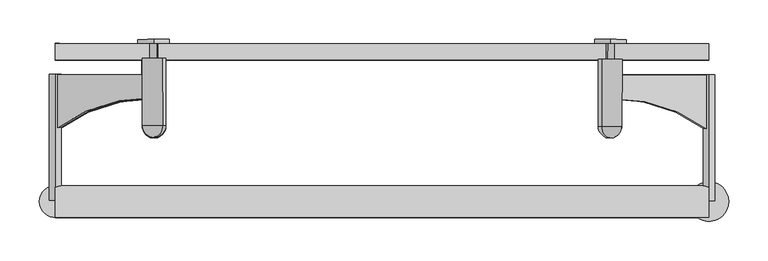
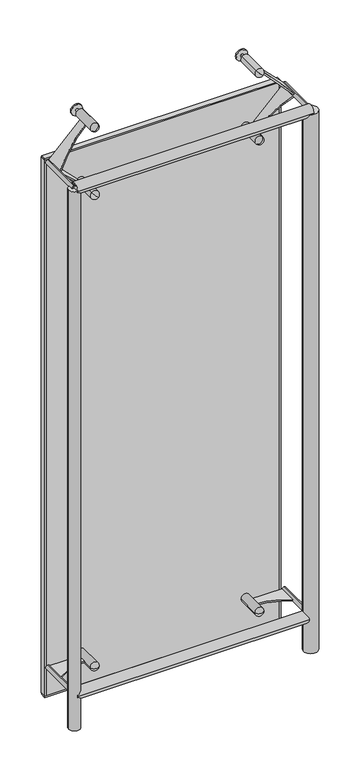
"""IFC4 building model written with IfcOpenShell, lengths in millimetres: plate geometry, FLATNING_TRYOUT : FLATNING_TRYOUT."""

from ifc_helpers import new_model, si_unit, point, frame, frame_2d, origin, origin_with_axes, place, context, project, spatial, polyline, circle_curve, ellipse_curve, trimmed, segment, composite_curve, outline, extrude, source, transform, mapped, element, save
from ifc_brep_helpers import plane_surface, cylinder_surface, revolved_surface, advanced_brep


def plate_934565e3(model_context):
    return source(origin(), model_context, "Body", "SolidModel", [
        extrude(outline(composite_curve([segment(polyline([(29.9999999, 0.0), (30.0, -177.0), (-40.0000001, -177.0)]), True, "CONTINUOUS"), segment(trimmed(circle_curve(frame_2d((-375.1980994, -8.2292431)), 375.2883348), [point((-40.0000001, -177.0))], [point((0.0, 0.0))], True, "CARTESIAN"), True, "CONTINUOUS"), segment(polyline([(0.0, 0.0), (29.9999999, 0.0)]), True, "CONTINUOUS")], self_intersect=False)), frame((287.7156771, -69.2674093, 2123.3901333), z_axis=(0.7070974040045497, -0.003641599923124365, 0.7071067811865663), x_axis=(0.005150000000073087, 0.9999867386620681, 0.0)), (0.0, 0.0, 1.0), 5.0),
        advanced_brep(
        [(289.8439206, 0.7225584, 2125.1579003), (293.3794076, 0.7043504, 2121.6223664), (286.3084336, 0.7407664, 2128.6934342), (279.1344596, -19.2225524, 2135.764502), (300.3473817, -19.3318004, 2114.5512986), (299.9096317, -104.3306732, 2114.5512986), (278.6967096, -104.2214252, 2135.764502), (286.2054336, -19.2589684, 2128.6934342), (293.2764076, -19.2953844, 2121.6223664), (289.2259206, -119.2758503, 2125.1579003)],
        [
            (0, 1),
            (1, 2, circle_curve(frame((289.8439206, 0.7225584, 2125.1579003), z_axis=(0.005150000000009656, 0.9999867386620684, 0.0), x_axis=(0.7070974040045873, -0.0036415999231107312, -0.7071067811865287)), 5.0)),
            (2, 0),
            (2, 1, circle_curve(frame((289.8439206, 0.7225584, 2125.1579003), z_axis=(0.005150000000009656, 0.9999867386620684, 0.0), x_axis=(0.7070974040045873, -0.0036415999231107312, -0.7071067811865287)), 5.0)),
            (3, 4, circle_curve(frame((289.7409206, -19.2771764, 2125.1579003), z_axis=(-0.005150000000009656, -0.9999867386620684, 0.0), x_axis=(0.7070974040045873, -0.0036415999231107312, -0.7071067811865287)), 15.0)),
            (4, 5),
            (5, 6, circle_curve(frame((289.3031706, -104.2760492, 2125.1579003), z_axis=(0.005150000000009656, 0.9999867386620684, 0.0), x_axis=(0.7070974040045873, -0.0036415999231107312, -0.7071067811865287)), 15.0)),
            (6, 3),
            (4, 3, circle_curve(frame((289.7409206, -19.2771764, 2125.1579003), z_axis=(-0.005150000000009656, -0.9999867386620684, 0.0), x_axis=(0.7070974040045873, -0.0036415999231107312, -0.7071067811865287)), 15.0)),
            (6, 5, circle_curve(frame((289.3031706, -104.2760492, 2125.1579003), z_axis=(0.005150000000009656, 0.9999867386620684, 0.0), x_axis=(0.7070974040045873, -0.0036415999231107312, -0.7071067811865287)), 15.0)),
            (7, 8, circle_curve(frame((289.7409206, -19.2771764, 2125.1579003), z_axis=(-0.005150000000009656, -0.9999867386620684, 0.0), x_axis=(0.7070974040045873, -0.0036415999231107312, -0.7071067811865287)), 5.0)),
            (8, 4),
            (3, 7),
            (8, 7, circle_curve(frame((289.7409206, -19.2771764, 2125.1579003), z_axis=(-0.005150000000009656, -0.9999867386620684, 0.0), x_axis=(0.7070974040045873, -0.0036415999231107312, -0.7071067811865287)), 5.0)),
            (1, 8),
            (7, 2),
            (5, 9, circle_curve(frame((289.3031706, -104.2760492, 2125.1579003), z_axis=(-0.7070974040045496, 0.0036415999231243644, -0.7071067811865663), x_axis=(0.7070974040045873, -0.0036415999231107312, -0.7071067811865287)), 15.0)),
            (9, 6, circle_curve(frame((289.3031706, -104.2760492, 2125.1579003), z_axis=(-0.7070974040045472, 0.0036415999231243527, -0.7071067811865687), x_axis=(-0.7070974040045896, 0.003641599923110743, 0.7071067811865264)), 15.0)),
        ],
        [
            plane_surface(frame((289.8439206, 0.7225584, 2125.1579003), z_axis=(0.005150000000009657, 0.9999867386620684, 0.0), x_axis=(0.7070974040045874, -0.0036415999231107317, -0.7071067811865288))),
            cylinder_surface(frame((292.5734206, 530.7155299, 2125.1579003), z_axis=(0.005150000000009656, 0.9999867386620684, 0.0), x_axis=(0.7070974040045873, -0.0036415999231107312, -0.7071067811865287)), 15.0),
            plane_surface(frame((289.7409206, -19.2771764, 2125.1579003), z_axis=(0.005150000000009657, 0.9999867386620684, 0.0), x_axis=(0.7070974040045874, -0.0036415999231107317, -0.7071067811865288))),
            cylinder_surface(frame((292.5734206, 530.7155299, 2125.1579003), z_axis=(0.005150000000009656, 0.9999867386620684, 0.0), x_axis=(0.7070974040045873, -0.0036415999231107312, -0.7071067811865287)), 5.0),
            revolved_surface(trimmed(ellipse_curve(frame((289.3031706, -104.2760492, 2125.1579003), z_axis=(0.7070974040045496, -0.0036415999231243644, 0.7071067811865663), x_axis=(0.7070974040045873, -0.0036415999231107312, -0.7071067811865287)), 15.0, 15.0), [point((289.2259206, -119.2758503, 2125.1579003))], [point((299.9096317, -104.3306732, 2114.5512986))], True, "CARTESIAN"), (292.5734206, 530.7155299, 2125.1579003), (0.005150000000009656, 0.9999867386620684, 0.0)),
        ],
        [
            (0, [[1, 2, 3]]),
            (0, [[-3, 4, -1]]),
            (1, [[5, 6, 7, 8]]),
            (1, [[9, -8, 10, -6]]),
            (2, [[11, 12, -5, 13]]),
            (2, [[14, -13, -9, -12]]),
            (3, [[-2, 15, -11, 16]]),
            (3, [[-4, -16, -14, -15]]),
            (4, [[-7, 17, 18]]),
            (4, [[-10, -18, -17]]),
        ],
    ),
        extrude(outline(composite_curve([segment(polyline([(-29.9999999, 0.0), (0.0, 0.0)]), True, "CONTINUOUS"), segment(trimmed(circle_curve(frame_2d((375.1980994, -8.2292431)), 375.2883348), [point((0.0, 0.0))], [point((40.0000001, -177.0))], True, "CARTESIAN"), True, "CONTINUOUS"), segment(polyline([(40.0000001, -177.0), (-30.0, -177.0), (-29.9999999, 0.0)]), True, "CONTINUOUS")], self_intersect=False)), frame((-287.7182745, -68.1085247, 2123.3901333), z_axis=(-0.7070974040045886, -0.003641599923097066, 0.7071067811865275), x_axis=(0.005150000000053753, -0.9999867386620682, 0.0)), (0.0, 0.0, 1.0), 5.0),
        advanced_brep(
        [(-289.846518, 1.881443, 2125.1579003), (-293.3820051, 1.863235, 2121.6223664), (-286.311031, 1.899651, 2128.6934342), (-279.137057, -18.0636678, 2135.764502), (-300.3499791, -18.1729158, 2114.5512986), (-299.9122291, -103.1717886, 2114.5512986), (-278.699307, -103.0625406, 2135.764502), (-286.208031, -18.1000838, 2128.6934342), (-293.2790051, -18.1364998, 2121.6223664), (-289.228518, -118.1169657, 2125.1579003)],
        [
            (0, 1),
            (1, 2, circle_curve(frame((-289.846518, 1.881443, 2125.1579003), z_axis=(-0.005149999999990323, 0.9999867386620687, 0.0), x_axis=(-0.7070974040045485, -0.0036415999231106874, -0.7071067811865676)), 5.0)),
            (2, 0),
            (2, 1, circle_curve(frame((-289.846518, 1.881443, 2125.1579003), z_axis=(-0.005149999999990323, 0.9999867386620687, 0.0), x_axis=(-0.7070974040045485, -0.0036415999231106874, -0.7071067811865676)), 5.0)),
            (3, 4, circle_curve(frame((-289.743518, -18.1182918, 2125.1579003), z_axis=(0.005149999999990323, -0.9999867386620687, 0.0), x_axis=(-0.7070974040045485, -0.0036415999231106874, -0.7071067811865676)), 15.0)),
            (4, 5),
            (5, 6, circle_curve(frame((-289.305768, -103.1171646, 2125.1579003), z_axis=(-0.005149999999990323, 0.9999867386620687, 0.0), x_axis=(-0.7070974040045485, -0.0036415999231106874, -0.7071067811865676)), 15.0)),
            (6, 3),
            (4, 3, circle_curve(frame((-289.743518, -18.1182918, 2125.1579003), z_axis=(0.005149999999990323, -0.9999867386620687, 0.0), x_axis=(-0.7070974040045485, -0.0036415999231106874, -0.7071067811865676)), 15.0)),
            (6, 5, circle_curve(frame((-289.305768, -103.1171646, 2125.1579003), z_axis=(-0.005149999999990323, 0.9999867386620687, 0.0), x_axis=(-0.7070974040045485, -0.0036415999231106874, -0.7071067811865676)), 15.0)),
            (7, 8, circle_curve(frame((-289.743518, -18.1182918, 2125.1579003), z_axis=(0.005149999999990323, -0.9999867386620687, 0.0), x_axis=(-0.7070974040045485, -0.0036415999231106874, -0.7071067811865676)), 5.0)),
            (8, 4),
            (3, 7),
            (8, 7, circle_curve(frame((-289.743518, -18.1182918, 2125.1579003), z_axis=(0.005149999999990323, -0.9999867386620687, 0.0), x_axis=(-0.7070974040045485, -0.0036415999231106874, -0.7071067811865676)), 5.0)),
            (1, 8),
            (7, 2),
            (5, 9, circle_curve(frame((-289.305768, -103.1171646, 2125.1579003), z_axis=(-0.7070974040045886, -0.003641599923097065, 0.7071067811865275), x_axis=(-0.7070974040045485, -0.0036415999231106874, -0.7071067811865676)), 15.0)),
            (9, 6, circle_curve(frame((-289.305768, -103.1171646, 2125.1579003), z_axis=(-0.707097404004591, -0.0036415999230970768, 0.7071067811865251), x_axis=(0.7070974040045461, 0.0036415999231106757, 0.7071067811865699)), 15.0)),
        ],
        [
            plane_surface(frame((-289.846518, 1.881443, 2125.1579003), z_axis=(-0.005149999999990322, 0.9999867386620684, 0.0), x_axis=(-0.7070974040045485, -0.0036415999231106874, -0.7071067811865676))),
            cylinder_surface(frame((-292.576018, 531.8744145, 2125.1579003), z_axis=(-0.005149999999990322, 0.9999867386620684, 0.0), x_axis=(-0.7070974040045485, -0.0036415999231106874, -0.7071067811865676)), 15.0),
            plane_surface(frame((-289.743518, -18.1182918, 2125.1579003), z_axis=(-0.005149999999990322, 0.9999867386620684, 0.0), x_axis=(-0.7070974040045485, -0.0036415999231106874, -0.7071067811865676))),
            cylinder_surface(frame((-292.576018, 531.8744145, 2125.1579003), z_axis=(-0.005149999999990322, 0.9999867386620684, 0.0), x_axis=(-0.7070974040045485, -0.0036415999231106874, -0.7071067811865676)), 5.0),
            revolved_surface(trimmed(ellipse_curve(frame((-289.305768, -103.1171646, 2125.1579003), z_axis=(0.7070974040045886, 0.003641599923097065, -0.7071067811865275), x_axis=(-0.7070974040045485, -0.0036415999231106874, -0.7071067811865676)), 15.0, 15.0), [point((-289.228518, -118.1169657, 2125.1579003))], [point((-299.9122291, -103.1717886, 2114.5512986))], True, "CARTESIAN"), (-292.576018, 531.8744145, 2125.1579003), (-0.005149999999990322, 0.9999867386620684, 0.0)),
        ],
        [
            (0, [[1, 2, 3]]),
            (0, [[-3, 4, -1]]),
            (1, [[5, 6, 7, 8]]),
            (1, [[9, -8, 10, -6]]),
            (2, [[11, 12, -5, 13]]),
            (2, [[14, -13, -9, -12]]),
            (3, [[-2, 15, -11, 16]]),
            (3, [[-4, -16, -14, -15]]),
            (4, [[-7, 17, 18]]),
            (4, [[-10, -18, -17]]),
        ],
    ),
        extrude(outline(composite_curve([segment(polyline([(30.0, 0.0), (30.0, -176.9999999), (-40.0, -176.9999999)]), True, "CONTINUOUS"), segment(trimmed(circle_curve(frame_2d((-375.1980994, -8.2292431)), 375.2883348), [point((-40.0, -176.9999999))], [point((0.0, 0.0))], True, "CARTESIAN"), True, "CONTINUOUS"), segment(polyline([(0.0, 0.0), (30.0, 0.0)]), True, "CONTINUOUS")], self_intersect=False)), frame((291.251003, -69.2856165, 1873.0743328), z_axis=(-0.7070974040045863, 0.0036415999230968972, 0.7071067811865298), x_axis=(0.005150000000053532, 0.9999867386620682, 0.0)), (0.0, 0.0, 1.0), 5.0),
        advanced_brep(
        [(289.8437595, 0.7225592, 1874.8420997), (293.3792465, 0.7043512, 1878.3776336), (286.3082725, 0.7407672, 1871.3065658), (279.1342984, -19.2225516, 1864.235498), (300.3472206, -19.3317996, 1885.4487014), (299.9094706, -104.3306723, 1885.4487014), (278.6965484, -104.2214243, 1864.235498), (286.2052725, -19.2589676, 1871.3065658), (293.2762465, -19.2953836, 1878.3776336), (289.2257595, -119.2758494, 1874.8420997)],
        [
            (0, 1),
            (1, 2, circle_curve(frame((289.8437595, 0.7225592, 1874.8420997), z_axis=(0.005149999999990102, 0.9999867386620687, 0.0), x_axis=(0.7070974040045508, -0.0036415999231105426, 0.7071067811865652)), 5.0)),
            (2, 0),
            (2, 1, circle_curve(frame((289.8437595, 0.7225592, 1874.8420997), z_axis=(0.005149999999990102, 0.9999867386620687, 0.0), x_axis=(0.7070974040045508, -0.0036415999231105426, 0.7071067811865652)), 5.0)),
            (3, 4, circle_curve(frame((289.7407595, -19.2771756, 1874.8420997), z_axis=(-0.005149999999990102, -0.9999867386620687, 0.0), x_axis=(0.7070974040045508, -0.0036415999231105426, 0.7071067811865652)), 15.0)),
            (4, 5),
            (5, 6, circle_curve(frame((289.3030095, -104.2760483, 1874.8420997), z_axis=(0.005149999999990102, 0.9999867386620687, 0.0), x_axis=(0.7070974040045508, -0.0036415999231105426, 0.7071067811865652)), 15.0)),
            (6, 3),
            (4, 3, circle_curve(frame((289.7407595, -19.2771756, 1874.8420997), z_axis=(-0.005149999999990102, -0.9999867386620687, 0.0), x_axis=(0.7070974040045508, -0.0036415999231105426, 0.7071067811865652)), 15.0)),
            (6, 5, circle_curve(frame((289.3030095, -104.2760483, 1874.8420997), z_axis=(0.005149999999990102, 0.9999867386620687, 0.0), x_axis=(0.7070974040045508, -0.0036415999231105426, 0.7071067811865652)), 15.0)),
            (7, 8, circle_curve(frame((289.7407595, -19.2771756, 1874.8420997), z_axis=(-0.005149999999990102, -0.9999867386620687, 0.0), x_axis=(0.7070974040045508, -0.0036415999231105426, 0.7071067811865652)), 5.0)),
            (8, 4),
            (3, 7),
            (8, 7, circle_curve(frame((289.7407595, -19.2771756, 1874.8420997), z_axis=(-0.005149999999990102, -0.9999867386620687, 0.0), x_axis=(0.7070974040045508, -0.0036415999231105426, 0.7071067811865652)), 5.0)),
            (1, 8),
            (7, 2),
            (5, 9, circle_curve(frame((289.3030095, -104.2760483, 1874.8420997), z_axis=(0.7070974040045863, -0.0036415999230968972, -0.7071067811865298), x_axis=(0.7070974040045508, -0.0036415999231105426, 0.7071067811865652)), 15.0)),
            (9, 6, circle_curve(frame((289.3030095, -104.2760483, 1874.8420997), z_axis=(0.7070974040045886, -0.003641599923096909, -0.7071067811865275), x_axis=(-0.7070974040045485, 0.003641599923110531, -0.7071067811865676)), 15.0)),
        ],
        [
            plane_surface(frame((289.8437595, 0.7225592, 1874.8420997), z_axis=(0.005149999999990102, 0.9999867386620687, 0.0), x_axis=(0.7070974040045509, -0.003641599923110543, 0.7071067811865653))),
            cylinder_surface(frame((292.5732595, 530.7155307, 1874.8420997), z_axis=(0.005149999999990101, 0.9999867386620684, 0.0), x_axis=(0.7070974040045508, -0.0036415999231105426, 0.7071067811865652)), 15.0),
            plane_surface(frame((289.7407595, -19.2771756, 1874.8420997), z_axis=(0.005149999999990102, 0.9999867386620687, 0.0), x_axis=(0.7070974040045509, -0.003641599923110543, 0.7071067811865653))),
            cylinder_surface(frame((292.5732595, 530.7155307, 1874.8420997), z_axis=(0.005149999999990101, 0.9999867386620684, 0.0), x_axis=(0.7070974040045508, -0.0036415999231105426, 0.7071067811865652)), 5.0),
            revolved_surface(trimmed(ellipse_curve(frame((289.3030095, -104.2760483, 1874.8420997), z_axis=(-0.7070974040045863, 0.0036415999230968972, 0.7071067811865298), x_axis=(0.7070974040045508, -0.0036415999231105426, 0.7071067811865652)), 15.0, 15.0), [point((289.2257595, -119.2758494, 1874.8420997))], [point((299.9094706, -104.3306723, 1885.4487014))], True, "CARTESIAN"), (292.5732595, 530.7155307, 1874.8420997), (0.005149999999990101, 0.9999867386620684, 0.0)),
        ],
        [
            (0, [[1, 2, 3]]),
            (0, [[-3, 4, -1]]),
            (1, [[5, 6, 7, 8]]),
            (1, [[9, -8, 10, -6]]),
            (2, [[11, 12, -5, 13]]),
            (2, [[14, -13, -9, -12]]),
            (3, [[-2, 15, -11, 16]]),
            (3, [[-4, -16, -14, -15]]),
            (4, [[-7, 17, 18]]),
            (4, [[-10, -18, -17]]),
        ],
    ),
        extrude(outline(composite_curve([segment(polyline([(30.0, 0.0), (0.0, 0.0)]), True, "CONTINUOUS"), segment(trimmed(circle_curve(frame_2d((-375.1980994, 8.2292431)), 375.2883348), [point((0.0, 0.0))], [point((-40.0, 176.9999999))], True, "CARTESIAN"), True, "CONTINUOUS"), segment(polyline([(-40.0, 176.9999999), (30.0, 176.9999999), (30.0, 0.0)]), True, "CONTINUOUS")], self_intersect=False)), frame((-291.251003, -69.2856165, 1873.0743328), z_axis=(0.7070974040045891, 0.003641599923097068, 0.707106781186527), x_axis=(-0.005150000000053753, 0.9999867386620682, 0.0)), (0.0, 0.0, 1.0), 5.0),
        advanced_brep(
        [(-289.8437595, 0.7225592, 1874.8420997), (-286.3082725, 0.7407672, 1871.3065658), (-293.3792465, 0.7043512, 1878.3776336), (-279.1342984, -19.2225516, 1864.235498), (-278.6965484, -104.2214243, 1864.235498), (-299.9094706, -104.3306723, 1885.4487014), (-300.3472206, -19.3317996, 1885.4487014), (-286.2052725, -19.2589676, 1871.3065658), (-293.2762465, -19.2953836, 1878.3776336), (-289.2257595, -119.2758494, 1874.8420997)],
        [
            (0, 1),
            (1, 2, circle_curve(frame((-289.8437595, 0.7225592, 1874.8420997), z_axis=(-0.005149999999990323, 0.9999867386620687, 0.0), x_axis=(-0.707097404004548, -0.003641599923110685, 0.707106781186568)), 5.0)),
            (2, 0),
            (2, 1, circle_curve(frame((-289.8437595, 0.7225592, 1874.8420997), z_axis=(-0.005149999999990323, 0.9999867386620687, 0.0), x_axis=(-0.707097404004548, -0.003641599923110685, 0.707106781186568)), 5.0)),
            (3, 4),
            (4, 5, circle_curve(frame((-289.3030095, -104.2760483, 1874.8420997), z_axis=(-0.005149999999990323, 0.9999867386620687, 0.0), x_axis=(-0.707097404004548, -0.003641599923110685, 0.707106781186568)), 15.0)),
            (5, 6),
            (6, 3, circle_curve(frame((-289.7407595, -19.2771756, 1874.8420997), z_axis=(0.005149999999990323, -0.9999867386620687, 0.0), x_axis=(-0.707097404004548, -0.003641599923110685, 0.707106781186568)), 15.0)),
            (5, 4, circle_curve(frame((-289.3030095, -104.2760483, 1874.8420997), z_axis=(-0.005149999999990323, 0.9999867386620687, 0.0), x_axis=(-0.707097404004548, -0.003641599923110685, 0.707106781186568)), 15.0)),
            (3, 6, circle_curve(frame((-289.7407595, -19.2771756, 1874.8420997), z_axis=(0.005149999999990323, -0.9999867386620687, 0.0), x_axis=(-0.707097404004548, -0.003641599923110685, 0.707106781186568)), 15.0)),
            (7, 3),
            (6, 8),
            (8, 7, circle_curve(frame((-289.7407595, -19.2771756, 1874.8420997), z_axis=(0.005149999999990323, -0.9999867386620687, 0.0), x_axis=(-0.707097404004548, -0.003641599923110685, 0.707106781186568)), 5.0)),
            (7, 8, circle_curve(frame((-289.7407595, -19.2771756, 1874.8420997), z_axis=(0.005149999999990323, -0.9999867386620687, 0.0), x_axis=(-0.707097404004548, -0.003641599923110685, 0.707106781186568)), 5.0)),
            (1, 7),
            (8, 2),
            (4, 9, circle_curve(frame((-289.3030095, -104.2760483, 1874.8420997), z_axis=(-0.7070974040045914, -0.0036415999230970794, -0.7071067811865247), x_axis=(0.7070974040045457, 0.003641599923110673, -0.7071067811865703)), 15.0)),
            (9, 5, circle_curve(frame((-289.3030095, -104.2760483, 1874.8420997), z_axis=(-0.7070974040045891, -0.0036415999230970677, -0.707106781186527), x_axis=(-0.707097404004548, -0.003641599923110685, 0.707106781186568)), 15.0)),
        ],
        [
            plane_surface(frame((-289.8437595, 0.7225592, 1874.8420997), z_axis=(-0.005149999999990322, 0.9999867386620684, 0.0), x_axis=(-0.707097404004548, -0.003641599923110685, 0.707106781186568))),
            cylinder_surface(frame((-292.5732595, 530.7155307, 1874.8420997), z_axis=(-0.005149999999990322, 0.9999867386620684, 0.0), x_axis=(-0.707097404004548, -0.003641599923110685, 0.707106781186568)), 15.0),
            plane_surface(frame((-289.7407595, -19.2771756, 1874.8420997), z_axis=(-0.005149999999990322, 0.9999867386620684, 0.0), x_axis=(-0.707097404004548, -0.003641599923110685, 0.707106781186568))),
            cylinder_surface(frame((-292.5732595, 530.7155307, 1874.8420997), z_axis=(-0.005149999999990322, 0.9999867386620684, 0.0), x_axis=(-0.707097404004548, -0.003641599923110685, 0.707106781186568)), 5.0),
            revolved_surface(trimmed(ellipse_curve(frame((-289.3030095, -104.2760483, 1874.8420997), z_axis=(-0.7070974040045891, -0.0036415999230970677, -0.707106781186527), x_axis=(-0.707097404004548, -0.003641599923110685, 0.707106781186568)), 15.0, 15.0), [point((-289.2257595, -119.2758494, 1874.8420997))], [point((-299.9094706, -104.3306723, 1885.4487014))], True, "CARTESIAN"), (-292.5732595, 530.7155307, 1874.8420997), (-0.005149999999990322, 0.9999867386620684, 0.0)),
        ],
        [
            (0, [[1, 2, 3]]),
            (0, [[-3, 4, -1]]),
            (1, [[5, 6, 7, 8]]),
            (1, [[-7, 9, -5, 10]]),
            (2, [[11, -8, 12, 13]]),
            (2, [[-12, -10, -11, 14]]),
            (3, [[15, -13, 16, -2]]),
            (3, [[-16, -14, -15, -4]]),
            (4, [[17, 18, -6]]),
            (4, [[-18, -17, -9]]),
        ],
    ),
        extrude(outline(composite_curve([segment(polyline([(289.7956578, -38.1188255), (414.7940002, -38.7625755), (414.4335002, -108.7616472)]), True, "CONTINUOUS"), segment(trimmed(circle_curve(frame_2d((284.2588537, -296.5494046)), 228.4943772), [point((414.4335002, -108.7616472))], [point((289.6411578, -68.1184277))], True, "CARTESIAN"), True, "CONTINUOUS"), segment(polyline([(289.6411578, -68.1184277), (289.7956578, -38.1188255)]), True, "CONTINUOUS")], self_intersect=False)), frame((0.0, 0.0, 122.5), z_axis=(0.0, 0.0, 1.0), x_axis=(1.0, 0.0, 0.0)), (0.0, 0.0, 1.0), 5.0),
        advanced_brep(
        [(290.0016578, 1.880644, 125.0), (295.0015915, 1.854894, 125.0), (285.0017241, 1.906394, 125.0), (274.8988567, -18.0418408, 125.0), (304.8984589, -18.1963408, 125.0), (304.4607089, -103.1952136, 125.0), (274.4611067, -103.0407136, 125.0), (284.8987241, -18.0933408, 125.0), (294.8985915, -18.1448408, 125.0), (289.3836578, -118.1177646, 125.0)],
        [
            (0, 1),
            (1, 2, circle_curve(frame((290.0016578, 1.880644, 125.0), z_axis=(0.005149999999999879, 0.9999867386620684, 0.0), x_axis=(0.9999867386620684, -0.005149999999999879, 0.0)), 5.0)),
            (2, 0),
            (2, 1, circle_curve(frame((290.0016578, 1.880644, 125.0), z_axis=(0.005149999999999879, 0.9999867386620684, 0.0), x_axis=(0.9999867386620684, -0.005149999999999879, 0.0)), 5.0)),
            (3, 4, circle_curve(frame((289.8986578, -18.1190908, 125.0), z_axis=(-0.005149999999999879, -0.9999867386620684, 0.0), x_axis=(0.9999867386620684, -0.005149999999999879, 0.0)), 15.0)),
            (4, 5),
            (5, 6, circle_curve(frame((289.4609078, -103.1179636, 125.0), z_axis=(0.005149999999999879, 0.9999867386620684, 0.0), x_axis=(0.9999867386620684, -0.005149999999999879, 0.0)), 15.0)),
            (6, 3),
            (4, 3, circle_curve(frame((289.8986578, -18.1190908, 125.0), z_axis=(-0.005149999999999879, -0.9999867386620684, 0.0), x_axis=(0.9999867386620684, -0.005149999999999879, 0.0)), 15.0)),
            (6, 5, circle_curve(frame((289.4609078, -103.1179636, 125.0), z_axis=(0.005149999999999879, 0.9999867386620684, 0.0), x_axis=(0.9999867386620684, -0.005149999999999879, 0.0)), 15.0)),
            (7, 8, circle_curve(frame((289.8986578, -18.1190908, 125.0), z_axis=(-0.005149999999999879, -0.9999867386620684, 0.0), x_axis=(0.9999867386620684, -0.005149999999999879, 0.0)), 5.0)),
            (8, 4),
            (3, 7),
            (8, 7, circle_curve(frame((289.8986578, -18.1190908, 125.0), z_axis=(-0.005149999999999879, -0.9999867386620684, 0.0), x_axis=(0.9999867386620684, -0.005149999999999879, 0.0)), 5.0)),
            (1, 8),
            (7, 2),
            (5, 9, circle_curve(frame((289.4609078, -103.1179636, 125.0), z_axis=(0.0, 0.0, -1.0), x_axis=(0.9999867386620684, -0.005149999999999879, 0.0)), 15.0)),
            (9, 6, circle_curve(frame((289.4609078, -103.1179636, 125.0), z_axis=(0.0, 0.0, -1.0), x_axis=(-0.9999867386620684, 0.005149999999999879, 0.0)), 15.0)),
        ],
        [
            plane_surface(frame((290.0016578, 1.880644, 125.0), z_axis=(0.005149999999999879, 0.9999867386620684, 0.0), x_axis=(0.9999867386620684, -0.005149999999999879, 0.0))),
            cylinder_surface(frame((291.3149078, 256.8772624, 125.0), z_axis=(0.005149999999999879, 0.9999867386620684, 0.0), x_axis=(0.9999867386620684, -0.005149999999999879, 0.0)), 15.0),
            plane_surface(frame((289.8986578, -18.1190908, 125.0), z_axis=(0.005149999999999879, 0.9999867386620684, 0.0), x_axis=(0.9999867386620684, -0.005149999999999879, 0.0))),
            cylinder_surface(frame((291.3149078, 256.8772624, 125.0), z_axis=(0.005149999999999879, 0.9999867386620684, 0.0), x_axis=(0.9999867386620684, -0.005149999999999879, 0.0)), 5.0),
            revolved_surface(trimmed(ellipse_curve(frame((289.4609078, -103.1179636, 125.0), z_axis=(0.0, 0.0, 1.0), x_axis=(0.9999867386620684, -0.005149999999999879, 0.0)), 15.0, 15.0), [point((289.3836578, -118.1177646, 125.0))], [point((304.4607089, -103.1952136, 125.0))], True, "CARTESIAN"), (291.3149078, 256.8772624, 125.0), (0.005149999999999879, 0.9999867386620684, 0.0)),
        ],
        [
            (0, [[1, 2, 3]]),
            (0, [[-3, 4, -1]]),
            (1, [[5, 6, 7, 8]]),
            (1, [[9, -8, 10, -6]]),
            (2, [[11, 12, -5, 13]]),
            (2, [[14, -13, -9, -12]]),
            (3, [[-2, 15, -11, 16]]),
            (3, [[-4, -16, -14, -15]]),
            (4, [[-7, 17, 18]]),
            (4, [[-10, -18, -17]]),
        ],
    ),
        extrude(outline(composite_curve([segment(polyline([(-289.7956578, -38.1188255), (-289.6411578, -68.1184277)]), True, "CONTINUOUS"), segment(trimmed(circle_curve(frame_2d((-284.2588537, -296.5494046)), 228.4943772), [point((-289.6411578, -68.1184277))], [point((-414.4335002, -108.7616472))], True, "CARTESIAN"), True, "CONTINUOUS"), segment(polyline([(-414.4335002, -108.7616472), (-414.7940002, -38.7625755), (-289.7956578, -38.1188255)]), True, "CONTINUOUS")], self_intersect=False)), frame((0.0, 0.0, 122.5), z_axis=(0.0, 0.0, 1.0), x_axis=(1.0, 0.0, 0.0)), (0.0, 0.0, 1.0), 5.0),
        advanced_brep(
        [(-290.0016578, 1.880644, 125.0), (-295.0015915, 1.854894, 125.0), (-285.0017241, 1.906394, 125.0), (-274.8988567, -18.0418408, 125.0), (-304.8984589, -18.1963408, 125.0), (-304.4607089, -103.1952136, 125.0), (-274.4611067, -103.0407136, 125.0), (-284.8987241, -18.0933408, 125.0), (-294.8985915, -18.1448408, 125.0), (-289.3836578, -118.1177646, 125.0)],
        [
            (0, 1),
            (1, 2, circle_curve(frame((-290.0016578, 1.880644, 125.0), z_axis=(-0.0051500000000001, 0.9999867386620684, 0.0), x_axis=(-0.9999867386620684, -0.0051500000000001, 0.0)), 5.0)),
            (2, 0),
            (2, 1, circle_curve(frame((-290.0016578, 1.880644, 125.0), z_axis=(-0.0051500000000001, 0.9999867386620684, 0.0), x_axis=(-0.9999867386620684, -0.0051500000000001, 0.0)), 5.0)),
            (3, 4, circle_curve(frame((-289.8986578, -18.1190908, 125.0), z_axis=(0.0051500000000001, -0.9999867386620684, 0.0), x_axis=(-0.9999867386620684, -0.0051500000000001, 0.0)), 15.0)),
            (4, 5),
            (5, 6, circle_curve(frame((-289.4609078, -103.1179636, 125.0), z_axis=(-0.0051500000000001, 0.9999867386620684, 0.0), x_axis=(-0.9999867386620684, -0.0051500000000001, 0.0)), 15.0)),
            (6, 3),
            (4, 3, circle_curve(frame((-289.8986578, -18.1190908, 125.0), z_axis=(0.0051500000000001, -0.9999867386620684, 0.0), x_axis=(-0.9999867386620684, -0.0051500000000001, 0.0)), 15.0)),
            (6, 5, circle_curve(frame((-289.4609078, -103.1179636, 125.0), z_axis=(-0.0051500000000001, 0.9999867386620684, 0.0), x_axis=(-0.9999867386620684, -0.0051500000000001, 0.0)), 15.0)),
            (7, 8, circle_curve(frame((-289.8986578, -18.1190908, 125.0), z_axis=(0.0051500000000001, -0.9999867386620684, 0.0), x_axis=(-0.9999867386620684, -0.0051500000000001, 0.0)), 5.0)),
            (8, 4),
            (3, 7),
            (8, 7, circle_curve(frame((-289.8986578, -18.1190908, 125.0), z_axis=(0.0051500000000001, -0.9999867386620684, 0.0), x_axis=(-0.9999867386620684, -0.0051500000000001, 0.0)), 5.0)),
            (1, 8),
            (7, 2),
            (5, 9, circle_curve(frame((-289.4609078, -103.1179636, 125.0), z_axis=(0.0, 0.0, 1.0), x_axis=(-0.9999867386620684, -0.0051500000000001, 0.0)), 15.0)),
            (9, 6, circle_curve(frame((-289.4609078, -103.1179636, 125.0), z_axis=(0.0, 0.0, 1.0), x_axis=(0.9999867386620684, 0.0051500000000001, 0.0)), 15.0)),
        ],
        [
            plane_surface(frame((-290.0016578, 1.880644, 125.0), z_axis=(-0.0051500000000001, 0.9999867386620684, 0.0), x_axis=(-0.9999867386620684, -0.0051500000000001, 0.0))),
            cylinder_surface(frame((-291.3149078, 256.8772624, 125.0), z_axis=(-0.0051500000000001, 0.9999867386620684, 0.0), x_axis=(-0.9999867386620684, -0.0051500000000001, 0.0)), 15.0),
            plane_surface(frame((-289.8986578, -18.1190908, 125.0), z_axis=(-0.0051500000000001, 0.9999867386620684, 0.0), x_axis=(-0.9999867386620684, -0.0051500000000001, 0.0))),
            cylinder_surface(frame((-291.3149078, 256.8772624, 125.0), z_axis=(-0.0051500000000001, 0.9999867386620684, 0.0), x_axis=(-0.9999867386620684, -0.0051500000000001, 0.0)), 5.0),
            revolved_surface(trimmed(ellipse_curve(frame((-289.4609078, -103.1179636, 125.0), z_axis=(0.0, 0.0, -1.0), x_axis=(-0.9999867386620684, -0.0051500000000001, 0.0)), 15.0, 15.0), [point((-289.3836578, -118.1177646, 125.0))], [point((-304.4607089, -103.1952136, 125.0))], True, "CARTESIAN"), (-291.3149078, 256.8772624, 125.0), (-0.0051500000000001, 0.9999867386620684, 0.0)),
        ],
        [
            (0, [[1, 2, 3]]),
            (0, [[-3, 4, -1]]),
            (1, [[5, 6, 7, 8]]),
            (1, [[9, -8, 10, -6]]),
            (2, [[11, 12, -5, 13]]),
            (2, [[14, -13, -9, -12]]),
            (3, [[-2, 15, -11, 16]]),
            (3, [[-4, -16, -14, -15]]),
            (4, [[-7, 17, 18]]),
            (4, [[-10, -18, -17]]),
        ],
    ),
        extrude(outline(polyline([(415.0, -20.0), (-415.0, -20.0), (-415.0, 0.0), (415.0, 0.0), (415.0, -20.0)])), origin_with_axes(), (0.0, 0.0, 1.0), 5.0),
        extrude(outline(polyline([(415.0, -20.0), (-415.0, -20.0), (-415.0, 0.0), (415.0, 0.0), (415.0, -20.0)])), frame((0.0, 0.0, 1995.0), z_axis=(0.0, 0.0, 1.0), x_axis=(1.0, 0.0, 0.0)), (0.0, 0.0, 1.0), 5.0),
        extrude(outline(polyline([(410.0, 0.0781286), (415.0, 0.0781286), (415.0, -20.0), (410.0, -20.0), (410.0, 0.0781286)])), frame((0.0, 0.0, 5.0), z_axis=(0.0, 0.0, 1.0), x_axis=(1.0, 0.0, 0.0)), (0.0, 0.0, 1.0), 1990.0),
        extrude(outline(polyline([(-410.0, 1.236894), (-410.0, -20.0), (-415.0000002, -20.0), (-415.0000002, 1.236894), (-410.0, 1.236894)])), frame((0.0, 0.0, 5.0), z_axis=(0.0, 0.0, 1.0), x_axis=(1.0, 0.0, 0.0)), (0.0, 0.0, 1.0), 1990.0),
        extrude(outline(polyline([(410.0, -20.0), (-410.0, -20.0), (-410.0, 0.0), (410.0, 0.0), (410.0, -20.0)])), frame((0.0, 0.0, 5.0), z_axis=(0.0, 0.0, 1.0), x_axis=(1.0, 0.0, 0.0)), (0.0, 0.0, 1.0), 1990.0),
        extrude(outline(composite_curve([segment(trimmed(circle_curve(frame_2d((-200.0, 2000.0)), 20.0), [point((-220.0, 2000.0))], [point((-180.0, 2000.0))], False, "CARTESIAN"), True, "CONTINUOUS"), segment(trimmed(circle_curve(frame_2d((-200.0, 2000.0)), 20.0), [point((-180.0, 2000.0))], [point((-220.0, 2000.0))], False, "CARTESIAN"), True, "CONTINUOUS")], self_intersect=False)), frame((-415.0, 0.0, 0.0), z_axis=(1.0, 0.0, 0.0), x_axis=(0.0, 1.0, 0.0)), (0.0, 0.0, 1.0), 830.0),
        extrude(outline(composite_curve([segment(trimmed(circle_curve(frame_2d((-200.0, 125.0)), 20.0), [point((-220.0, 125.0))], [point((-180.0, 125.0))], False, "CARTESIAN"), True, "CONTINUOUS"), segment(trimmed(circle_curve(frame_2d((-200.0, 125.0)), 20.0), [point((-180.0, 125.0))], [point((-220.0, 125.0))], False, "CARTESIAN"), True, "CONTINUOUS")], self_intersect=False)), frame((-415.0, 0.0, 0.0), z_axis=(1.0, 0.0, 0.0), x_axis=(0.0, 1.0, 0.0)), (0.0, 0.0, 1.0), 830.0),
        extrude(outline(composite_curve([segment(trimmed(circle_curve(frame_2d((2000.0, -415.0)), 7.5), [point((1992.5, -415.0))], [point((2007.5, -415.0))], False, "CARTESIAN"), True, "CONTINUOUS"), segment(trimmed(circle_curve(frame_2d((2000.0, -415.0)), 7.5), [point((2007.5, -415.0))], [point((1992.5, -415.0))], False, "CARTESIAN"), True, "CONTINUOUS")], self_intersect=False)), frame((0.0, -198.6528093, 0.0), z_axis=(0.0, 1.0, 0.0), x_axis=(0.0, 0.0, 1.0)), (0.0, 0.0, 1.0), 160.0),
        extrude(outline(composite_curve([segment(trimmed(circle_curve(frame_2d((2000.0, 415.0)), 7.5), [point((1992.5, 415.0))], [point((2007.5, 415.0))], False, "CARTESIAN"), True, "CONTINUOUS"), segment(trimmed(circle_curve(frame_2d((2000.0, 415.0)), 7.5), [point((2007.5, 415.0))], [point((1992.5, 415.0))], False, "CARTESIAN"), True, "CONTINUOUS")], self_intersect=False)), frame((0.0, -199.2242369, 0.0), z_axis=(0.0, 1.0, 0.0), x_axis=(0.0, 0.0, 1.0)), (0.0, 0.0, 1.0), 160.0),
        extrude(outline(composite_curve([segment(trimmed(circle_curve(frame_2d((0.0, -20.0)), 20.0), [point((0.0, -40.0))], [point((0.0, 0.0))], False, "CARTESIAN"), True, "CONTINUOUS"), segment(trimmed(circle_curve(frame_2d((0.0, -20.0)), 20.0), [point((0.0, 0.0))], [point((0.0, -40.0))], False, "CARTESIAN"), True, "CONTINUOUS")], self_intersect=False)), frame((-289.97425, 0.7218872, 1895.0), z_axis=(-0.005150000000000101, 0.9999867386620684, 0.0), x_axis=(-0.9999867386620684, -0.005150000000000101, 0.0)), (0.0, 0.0, 1.0), 5.0),
        extrude(outline(composite_curve([segment(trimmed(circle_curve(frame_2d((0.0, 230.0)), 20.0), [point((0.0, 210.0))], [point((0.0, 250.0))], False, "CARTESIAN"), True, "CONTINUOUS"), segment(trimmed(circle_curve(frame_2d((0.0, 230.0)), 20.0), [point((0.0, 250.0))], [point((0.0, 210.0))], False, "CARTESIAN"), True, "CONTINUOUS")], self_intersect=False)), frame((-289.97425, 0.7218872, 1895.0), z_axis=(-0.005150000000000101, 0.9999867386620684, 0.0), x_axis=(-0.9999867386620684, -0.005150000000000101, 0.0)), (0.0, 0.0, 1.0), 5.0),
        extrude(outline(composite_curve([segment(trimmed(circle_curve(frame_2d((0.0, -20.0)), 20.0), [point((0.0, -40.0))], [point((0.0, 0.0))], False, "CARTESIAN"), True, "CONTINUOUS"), segment(trimmed(circle_curve(frame_2d((0.0, -20.0)), 20.0), [point((0.0, 0.0))], [point((0.0, -40.0))], False, "CARTESIAN"), True, "CONTINUOUS")], self_intersect=False)), frame((289.97425, 0.7218872, 1895.0), z_axis=(0.005149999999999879, 0.9999867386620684, 0.0), x_axis=(-0.9999867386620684, 0.005149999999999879, 0.0)), (0.0, 0.0, 1.0), 5.0),
        extrude(outline(composite_curve([segment(trimmed(circle_curve(frame_2d((0.0, 230.0)), 20.0), [point((0.0, 210.0))], [point((0.0, 250.0))], False, "CARTESIAN"), True, "CONTINUOUS"), segment(trimmed(circle_curve(frame_2d((0.0, 230.0)), 20.0), [point((0.0, 250.0))], [point((0.0, 210.0))], False, "CARTESIAN"), True, "CONTINUOUS")], self_intersect=False)), frame((289.97425, 0.7218872, 1895.0), z_axis=(0.005149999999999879, 0.9999867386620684, 0.0), x_axis=(-0.9999867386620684, 0.005149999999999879, 0.0)), (0.0, 0.0, 1.0), 5.0),
        extrude(outline(composite_curve([segment(trimmed(circle_curve(frame_2d((125.0, 415.0)), 7.5), [point((117.5, 415.0))], [point((132.5, 415.0))], False, "CARTESIAN"), True, "CONTINUOUS"), segment(trimmed(circle_curve(frame_2d((125.0, 415.0)), 7.5), [point((132.5, 415.0))], [point((117.5, 415.0))], False, "CARTESIAN"), True, "CONTINUOUS")], self_intersect=False)), frame((0.0, -199.2589491, 0.0), z_axis=(0.0, 1.0, 0.0), x_axis=(0.0, 0.0, 1.0)), (0.0, 0.0, 1.0), 160.0),
        extrude(outline(composite_curve([segment(trimmed(circle_curve(frame_2d((0.0, -20.0)), 20.0), [point((0.0, -40.0))], [point((0.0, 0.0))], False, "CARTESIAN"), True, "CONTINUOUS"), segment(trimmed(circle_curve(frame_2d((0.0, -20.0)), 20.0), [point((0.0, 0.0))], [point((0.0, -40.0))], False, "CARTESIAN"), True, "CONTINUOUS")], self_intersect=False)), frame((290.0, 0.7218872, 145.0), z_axis=(0.005149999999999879, 0.9999867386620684, 0.0), x_axis=(-0.9999867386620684, 0.005149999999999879, 0.0)), (0.0, 0.0, 1.0), 5.0),
        extrude(outline(composite_curve([segment(trimmed(circle_curve(frame_2d((125.0, -415.0)), 7.5), [point((117.5, -415.0))], [point((132.5, -415.0))], False, "CARTESIAN"), True, "CONTINUOUS"), segment(trimmed(circle_curve(frame_2d((125.0, -415.0)), 7.5), [point((132.5, -415.0))], [point((117.5, -415.0))], False, "CARTESIAN"), True, "CONTINUOUS")], self_intersect=False)), frame((0.0, -198.8047197, 0.0), z_axis=(0.0, 1.0, 0.0), x_axis=(0.0, 0.0, 1.0)), (0.0, 0.0, 1.0), 160.0),
        extrude(outline(composite_curve([segment(trimmed(circle_curve(frame_2d((0.0, -20.0)), 20.0), [point((0.0, -40.0))], [point((0.0, 0.0))], False, "CARTESIAN"), True, "CONTINUOUS"), segment(trimmed(circle_curve(frame_2d((0.0, -20.0)), 20.0), [point((0.0, 0.0))], [point((0.0, -40.0))], False, "CARTESIAN"), True, "CONTINUOUS")], self_intersect=False)), frame((-290.0, 0.7218872, 145.0), z_axis=(-0.005150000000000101, 0.9999867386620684, 0.0), x_axis=(-0.9999867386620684, -0.005150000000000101, 0.0)), (0.0, 0.0, 1.0), 5.0),
        extrude(outline(composite_curve([segment(trimmed(circle_curve(frame_2d((415.0, -200.0)), 25.0), [point((390.0, -200.0))], [point((440.0, -200.0))], False, "CARTESIAN"), True, "CONTINUOUS"), segment(trimmed(circle_curve(frame_2d((415.0, -200.0)), 25.0), [point((440.0, -200.0))], [point((390.0, -200.0))], False, "CARTESIAN"), True, "CONTINUOUS")], self_intersect=False)), origin_with_axes(), (0.0, 0.0, 1.0), 2000.0),
        extrude(outline(composite_curve([segment(trimmed(circle_curve(frame_2d((-415.0, -200.0)), 20.0), [point((-435.0, -200.0))], [point((-395.0, -200.0))], False, "CARTESIAN"), True, "CONTINUOUS"), segment(trimmed(circle_curve(frame_2d((-415.0, -200.0)), 20.0), [point((-395.0, -200.0))], [point((-435.0, -200.0))], False, "CARTESIAN"), True, "CONTINUOUS")], self_intersect=False)), origin_with_axes(), (0.0, 0.0, 1.0), 2000.0),
    ])


if __name__ == "__main__":
    model = new_model("IFC4")
    model_context = context("Model", 3, world=origin())
    ifc_project = project(units=[si_unit("LENGTHUNIT", "METRE", prefix="MILLI")], contexts=[model_context])
    site = spatial("IfcSite", under=ifc_project)
    building = spatial("IfcBuilding", under=site)
    placement = place(None, origin())
    plate_shape = plate_934565e3(model_context)
    element("IfcPlate", 1, ObjectType="FLATNING_TRYOUT : FLATNING_TRYOUT", at=placement, inside=building, context=model_context, shape_type="MappedRepresentation", body=[
        mapped(plate_shape, transform((0.0, 0.0, 0.0), x_axis=(1.0, 0.0, 0.0), y_axis=(0.0, 1.0, 0.0), z_axis=(0.0, 0.0, 1.0))),
    ])
    save(model, "model.ifc")
